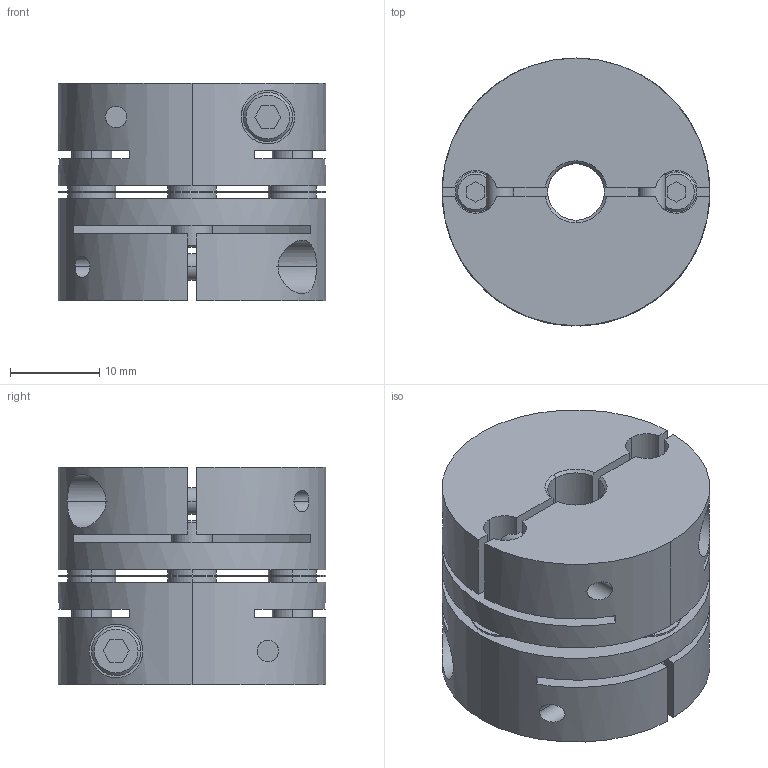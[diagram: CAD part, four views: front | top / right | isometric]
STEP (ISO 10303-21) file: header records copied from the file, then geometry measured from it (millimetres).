
FILE_DESCRIPTION((''),'2;1');
FILE_NAME('LAS-30C-6.35×6.35.stp','2015-10-14T15:13:49',(''),(''),'AutoCAD STEP 2000i','AutoCAD 2000i',', , ');
FILE_SCHEMA(('CONFIG_CONTROL_DESIGN'));
Length unit declared in the file: millimetre
Products named in the file (5): LAS-30C-6×6; 忣兜1; LA-3002-D06-1; LA-3002-D06; LAS30-ITA
Assembly tree (4 placements, depth 2):
  LAS-30C-6×6
    忣兜1
    LA-3002-D06-1
    LA-3002-D06
    LAS30-ITA
Bounding box: 30 x 30 x 24.4 mm (x, y, z)
Volume: 13691.5 mm3; surface area: 9260.6 mm2
Topology: 1 solids, 1 shells, 236 faces, 624 edges, 408 vertices
Faces by surface type: plane 112, cylinder 96, cone 28
Entity records: 8139 total; most frequent: CARTESIAN_POINT 1945, DIRECTION 1302, ORIENTED_EDGE 1248, EDGE_CURVE 624, AXIS2_PLACEMENT_3D 477, VERTEX_POINT 408, VECTOR 348, LINE 348
